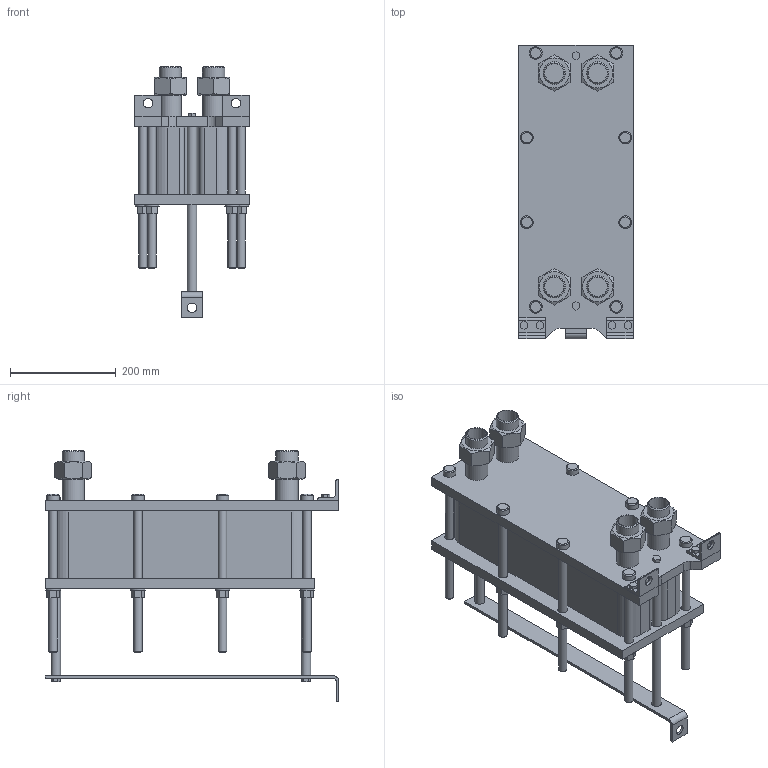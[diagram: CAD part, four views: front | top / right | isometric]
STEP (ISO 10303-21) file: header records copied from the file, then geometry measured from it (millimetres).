
FILE_DESCRIPTION(/* description */ (''),/* implementation_level */ '2;1');
FILE_NAME(/* name */ 'C:\Users\zhuro\Desktop\ENCO\TO\ЭН-004\ЭН-0,5-004-41-1.stp',/* time_stamp */ '2022-06-06T10:46:22+03:00',/* author */ ('zhuro'),/* organization */ (''),/* preprocessor_version */ 'ST-DEVELOPER v18.1',/* originating_system */ 'Autodesk Inventor 2022',/* authorisation */ '');
FILE_SCHEMA (('AUTOMOTIVE_DESIGN { 1 0 10303 214 3 1 1 }'));
Length unit declared in the file: millimetre
Products named in the file (1): ЭН-0,5-004-41-1
Bounding box: 216 x 555 x 473.8 mm (x, y, z)
Volume: 15079417 mm3; surface area: 1234215 mm2
Topology: 40 solids, 40 shells, 403 faces, 865 edges, 574 vertices
Faces by surface type: plane 272, cylinder 103, cone 28
Full cylindrical faces by diameter (mm): 10 x4, 16 x16, 18 x29, 20 x2, 24 x8, 28 x8, 36.3 x5, 42.3 x9
Entity records: 11137 total; most frequent: CARTESIAN_POINT 1939, DIRECTION 1879, ORIENTED_EDGE 1730, EDGE_CURVE 865, AXIS2_PLACEMENT_3D 658, VERTEX_POINT 574, LINE 563, VECTOR 563
